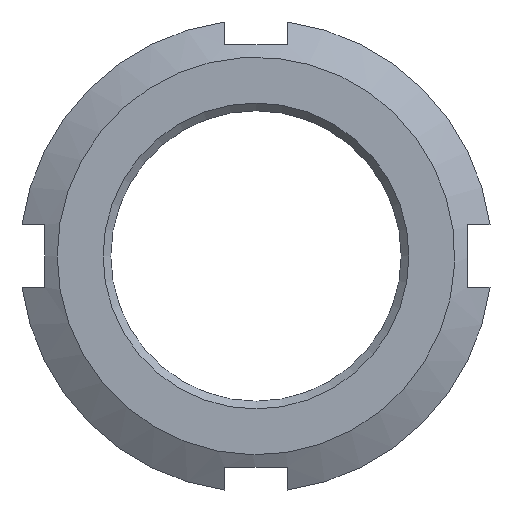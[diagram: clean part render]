
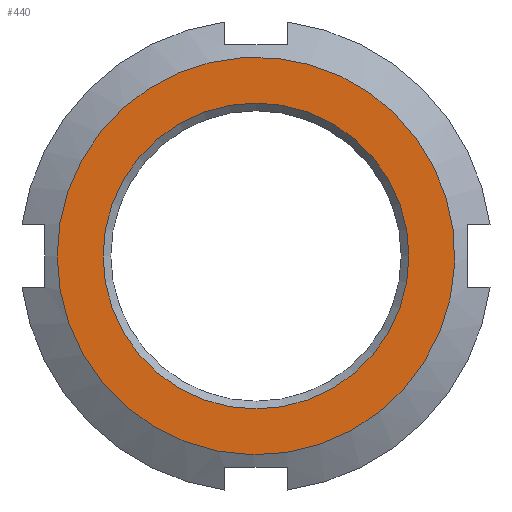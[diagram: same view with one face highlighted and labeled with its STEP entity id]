
A CAD part, left-side view. The second image highlights one B-rep face of the part: STEP entity #440.
In plain terms, the highlighted planar face has unit normal (-1, 0, 0).
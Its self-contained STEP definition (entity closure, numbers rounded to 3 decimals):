
#95=PLANE('',#471);
#116=FACE_BOUND('',#151,.T.);
#122=FACE_OUTER_BOUND('',#150,.T.);
#150=EDGE_LOOP('',(#309));
#151=EDGE_LOOP('',(#310));
#179=CIRCLE('',#468,12.313);
#181=CIRCLE('',#472,16.);
#196=VERTEX_POINT('',#629);
#198=VERTEX_POINT('',#635);
#241=EDGE_CURVE('',#196,#196,#179,.T.);
#243=EDGE_CURVE('',#198,#198,#181,.T.);
#309=ORIENTED_EDGE('',*,*,#243,.F.);
#310=ORIENTED_EDGE('',*,*,#241,.F.);
#440=ADVANCED_FACE('',(#122,#116),#95,.T.);
#468=AXIS2_PLACEMENT_3D('',#630,#515,#516);
#471=AXIS2_PLACEMENT_3D('',#634,#521,#522);
#472=AXIS2_PLACEMENT_3D('',#636,#523,#524);
#515=DIRECTION('center_axis',(-1.,0.,0.));
#516=DIRECTION('ref_axis',(0.,0.,-1.));
#521=DIRECTION('center_axis',(-1.,0.,0.));
#522=DIRECTION('ref_axis',(0.,0.,1.));
#523=DIRECTION('center_axis',(1.,0.,0.));
#524=DIRECTION('ref_axis',(0.,-1.,0.));
#629=CARTESIAN_POINT('',(0.,0.,12.313));
#630=CARTESIAN_POINT('Origin',(0.,0.,0.));
#634=CARTESIAN_POINT('Origin',(0.,9.5,0.));
#635=CARTESIAN_POINT('',(0.,16.,0.));
#636=CARTESIAN_POINT('Origin',(0.,0.,0.));
